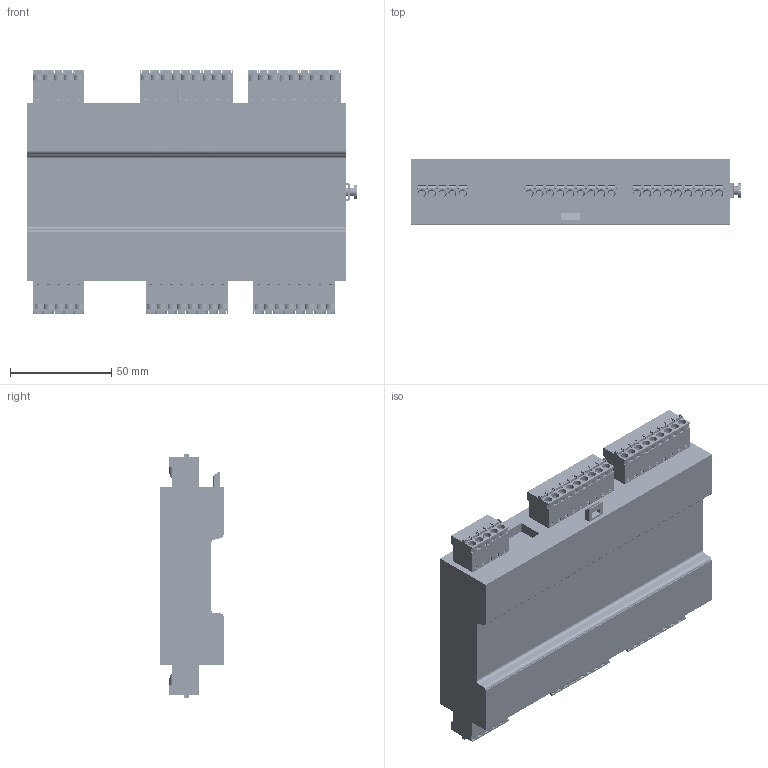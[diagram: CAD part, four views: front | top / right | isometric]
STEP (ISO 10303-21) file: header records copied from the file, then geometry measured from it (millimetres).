
FILE_DESCRIPTION(/* description */ (''),/* implementation_level */ '2;1');
FILE_NAME(/* name */ 'W:/Marketing/Product/PRO-MUX/PRO-MUX-1/Files for Web download/PRO-MUX-1(Type-S) Block Model v16.step',/* time_stamp */ '2018-05-09T15:47:34+01:00',/* author */ ('dougDQJX2'),/* organization */ (''),/* preprocessor_version */ 'ST-DEVELOPER v17',/* originating_system */ 'Autodesk Translation Framework v7.1.0.215',/* authorisation */ '');
FILE_SCHEMA (('AUTOMOTIVE_DESIGN { 1 0 10303 214 3 1 1 }'));
Products named in the file (14): PRO-MUX-1 (Type-S); PRO-MUX-1 populated PCB; PRO-MUX-1 (Rev 1) PCB (1; ARJC02-111006E; PC Screw Terminal; PC Screw Terminal bolt; cim059p5; Sauro cim099p5; cim089p5; ccf03005; ccf02005; Aggancio lungo; Case Body (Block Model); Component15
Assembly tree (32 placements, depth 3):
  PRO-MUX-1 (Type-S)
    PRO-MUX-1 populated PCB
      PRO-MUX-1 (Rev 1) PCB (1
      cim059p5  x2
      ARJC02-111006E
      Sauro cim099p5  x2
      cim089p5  x2
      PC Screw Terminal
      PC Screw Terminal bolt
      ccf02005  x10
      ccf03005  x8
    Aggancio lungo
    Case Body (Block Model)
      Component15
Bounding box: 163.22 x 32 x 120.3 mm (x, y, z)
Volume: 494881.8 mm3; surface area: 133731.1 mm2
Topology: 74 solids, 74 shells, 9455 faces, 25834 edges, 16833 vertices
Faces by surface type: plane 6761, cylinder 2232, cone 274, torus 108, bspline 68, sphere 12
Full cylindrical faces by diameter (mm): 1 x44, 1.3 x6, 1.4 x2, 1.5 x44, 1.52 x18, 1.7 x8, 1.722 x2, 2 x18, 2.75 x44, 3 x64, 3.4 x1, 4 x45, 7 x1
Entity records: 104943 total; most frequent: CARTESIAN_POINT 20138, ORIENTED_EDGE 17568, DIRECTION 17095, EDGE_CURVE 8784, LINE 6531, VECTOR 6531, VERTEX_POINT 5679, AXIS2_PLACEMENT_3D 5282
